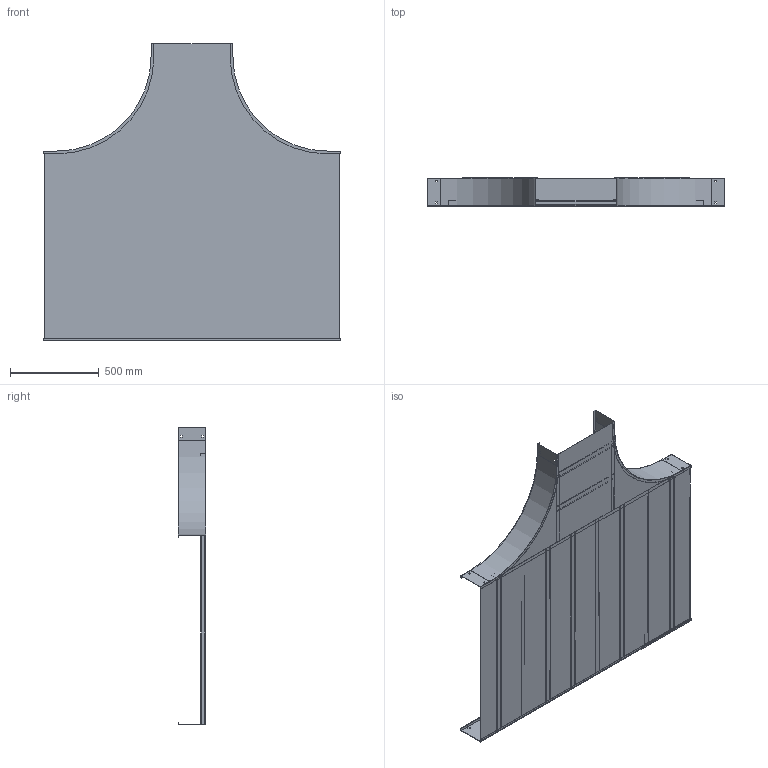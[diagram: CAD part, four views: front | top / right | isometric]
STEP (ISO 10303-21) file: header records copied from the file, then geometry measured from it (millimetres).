
FILE_DESCRIPTION((''),'2;1');
FILE_NAME('AUF64218SRT24_ASM','2010-02-11T',('erouzier'),(''),'PRO/ENGINEER BY PARAMETRIC TECHNOLOGY CORPORATION, 2008510','PRO/ENGINEER BY PARAMETRIC TECHNOLOGY CORPORATION, 2008510','');
FILE_SCHEMA(('CONFIG_CONTROL_DESIGN'));
Length unit declared in the file: inch
Products named in the file (17): CDS001321-6-90-21-I; CDS013843-6-66; CDS000495_GEN_AF9; CDS002159L42_AF8; CDS002159L42_AF9; CDS002159L42_AF10; CDS002159L42_AF11; CDS002159L42_AF12; CDS002159L42_AF13; CDS002159L42_AF14; CDS002159L42_AF15; CDS000495_GEN_AF10; CDS000495_GEN_AF11; CDS002159L18_AF6; CDS002159L18_AF7; CDS005002-42-24-18; AUF64218SRT24_ASM
Assembly tree (17 placements, depth 2):
  AUF64218SRT24_ASM
    CDS001321-6-90-21-I  x2
    CDS013843-6-66
    CDS000495_GEN_AF9
    CDS002159L42_AF8
    CDS002159L42_AF9
    CDS002159L42_AF10
    CDS002159L42_AF11
    CDS002159L42_AF12
    CDS002159L42_AF13
    CDS002159L42_AF14
    CDS002159L42_AF15
    CDS000495_GEN_AF10
    CDS000495_GEN_AF11
    CDS002159L18_AF6
    CDS002159L18_AF7
    CDS005002-42-24-18
Bounding box: 1681.48 x 157.23 x 1681.23 mm (x, y, z)
Volume: 5548548.1 mm3; surface area: 8285275.8 mm2
Topology: 17 solids, 17 shells, 436 faces, 1206 edges, 804 vertices
Faces by surface type: plane 316, cylinder 120
Entity records: 13215 total; most frequent: CARTESIAN_POINT 2286, ORIENTED_EDGE 2220, DIRECTION 2214, EDGE_CURVE 1110, VECTOR 878, LINE 878, VERTEX_POINT 740, AXIS2_PLACEMENT_3D 668
